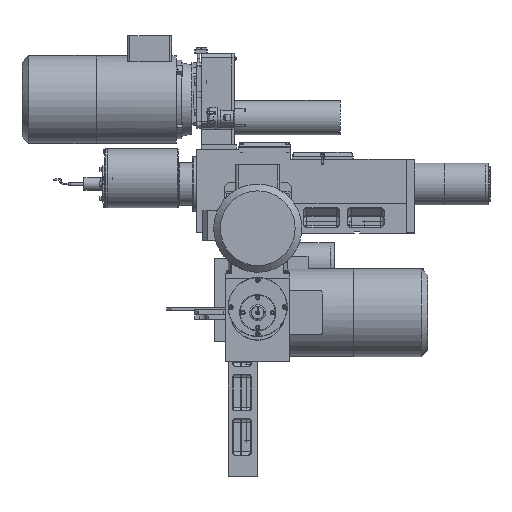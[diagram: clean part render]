
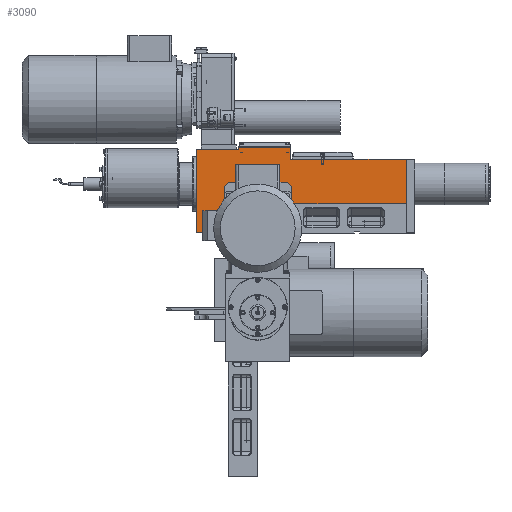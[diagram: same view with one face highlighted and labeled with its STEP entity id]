
A CAD part, front view. The second image highlights one B-rep face of the part: STEP entity #3090.
In plain terms, the highlighted planar face has unit normal (0, -1, 0).
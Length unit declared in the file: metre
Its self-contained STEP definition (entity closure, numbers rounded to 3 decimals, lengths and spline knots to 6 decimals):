
#3090 = ADVANCED_FACE( '', ( #4902 ), #4903, .T. );
#4902 = FACE_OUTER_BOUND( '', #9330, .T. );
#4903 = PLANE( '', #9331 );
#9330 = EDGE_LOOP( '', ( #15135, #15136, #15137, #15138, #15139, #15140, #15141, #15142, #15143, #15144 ) );
#9331 = AXIS2_PLACEMENT_3D( '', #15145, #15146, #15147 );
#15135 = ORIENTED_EDGE( '', *, *, #19839, .T. );
#15136 = ORIENTED_EDGE( '', *, *, #19840, .T. );
#15137 = ORIENTED_EDGE( '', *, *, #19841, .F. );
#15138 = ORIENTED_EDGE( '', *, *, #19842, .T. );
#15139 = ORIENTED_EDGE( '', *, *, #19843, .T. );
#15140 = ORIENTED_EDGE( '', *, *, #19835, .T. );
#15141 = ORIENTED_EDGE( '', *, *, #19844, .T. );
#15142 = ORIENTED_EDGE( '', *, *, #19845, .T. );
#15143 = ORIENTED_EDGE( '', *, *, #19846, .T. );
#15144 = ORIENTED_EDGE( '', *, *, #19847, .T. );
#15145 = CARTESIAN_POINT( '', ( 0.337, -0.003889, 0. ) );
#15146 = DIRECTION( '', ( 0., -1., 0. ) );
#15147 = DIRECTION( '', ( 1., 0., 0. ) );
#19835 = EDGE_CURVE( '', #22749, #22747, #22750, .T. );
#19839 = EDGE_CURVE( '', #22756, #22757, #22758, .T. );
#19840 = EDGE_CURVE( '', #22757, #22759, #22760, .T. );
#19841 = EDGE_CURVE( '', #22761, #22759, #22762, .T. );
#19842 = EDGE_CURVE( '', #22761, #22763, #22764, .T. );
#19843 = EDGE_CURVE( '', #22763, #22749, #22765, .T. );
#19844 = EDGE_CURVE( '', #22747, #22766, #22767, .T. );
#19845 = EDGE_CURVE( '', #22766, #22768, #22769, .T. );
#19846 = EDGE_CURVE( '', #22768, #22770, #22771, .T. );
#19847 = EDGE_CURVE( '', #22770, #22756, #22772, .T. );
#22747 = VERTEX_POINT( '', #28537 );
#22749 = VERTEX_POINT( '', #28540 );
#22750 = LINE( '', #28541, #28542 );
#22756 = VERTEX_POINT( '', #28551 );
#22757 = VERTEX_POINT( '', #28552 );
#22758 = LINE( '', #28553, #28554 );
#22759 = VERTEX_POINT( '', #28555 );
#22760 = LINE( '', #28556, #28557 );
#22761 = VERTEX_POINT( '', #28558 );
#22762 = LINE( '', #28559, #28560 );
#22763 = VERTEX_POINT( '', #28561 );
#22764 = LINE( '', #28562, #28563 );
#22765 = LINE( '', #28564, #28565 );
#22766 = VERTEX_POINT( '', #28566 );
#22767 = LINE( '', #28567, #28568 );
#22768 = VERTEX_POINT( '', #28569 );
#22769 = LINE( '', #28570, #28571 );
#22770 = VERTEX_POINT( '', #28572 );
#22771 = LINE( '', #28573, #28574 );
#22772 = LINE( '', #28575, #28576 );
#28537 = CARTESIAN_POINT( '', ( 0.337, -0.003889, 0.09 ) );
#28540 = CARTESIAN_POINT( '', ( 0.337, -0.003889, 0. ) );
#28541 = CARTESIAN_POINT( '', ( 0.337, -0.003889, 0. ) );
#28542 = VECTOR( '', #33030, 1. );
#28551 = CARTESIAN_POINT( '', ( -0.003, -0.003889, 0.11 ) );
#28552 = CARTESIAN_POINT( '', ( -0.088, -0.003889, 0.11 ) );
#28553 = CARTESIAN_POINT( '', ( 0.14575, -0.003889, 0.11 ) );
#28554 = VECTOR( '', #33034, 1. );
#28555 = CARTESIAN_POINT( '', ( -0.088, -0.003889, -0.059 ) );
#28556 = CARTESIAN_POINT( '', ( -0.088, -0.003889, -0.059 ) );
#28557 = VECTOR( '', #33035, 1. );
#28558 = CARTESIAN_POINT( '', ( -0.005, -0.003889, -0.059 ) );
#28559 = CARTESIAN_POINT( '', ( -0.005, -0.003889, -0.059 ) );
#28560 = VECTOR( '', #33036, 1. );
#28561 = CARTESIAN_POINT( '', ( -0.005, -0.003889, 0. ) );
#28562 = CARTESIAN_POINT( '', ( -0.005, -0.003889, -0.059 ) );
#28563 = VECTOR( '', #33037, 1. );
#28564 = CARTESIAN_POINT( '', ( -0.005, -0.003889, 0. ) );
#28565 = VECTOR( '', #33038, 1. );
#28566 = CARTESIAN_POINT( '', ( 0.102, -0.003889, 0.09 ) );
#28567 = CARTESIAN_POINT( '', ( -0.005, -0.003889, 0.09 ) );
#28568 = VECTOR( '', #33039, 1. );
#28569 = CARTESIAN_POINT( '', ( 0.102, -0.003889, 0.115 ) );
#28570 = CARTESIAN_POINT( '', ( 0.102, -0.003889, 0.09 ) );
#28571 = VECTOR( '', #33040, 1. );
#28572 = CARTESIAN_POINT( '', ( -0.003, -0.003889, 0.115 ) );
#28573 = CARTESIAN_POINT( '', ( -0.005, -0.003889, 0.115 ) );
#28574 = VECTOR( '', #33041, 1. );
#28575 = CARTESIAN_POINT( '', ( -0.003, -0.003889, 0.058735 ) );
#28576 = VECTOR( '', #33042, 1. );
#33030 = DIRECTION( '', ( 0., 0., 1. ) );
#33034 = DIRECTION( '', ( -1., 0., 0. ) );
#33035 = DIRECTION( '', ( 0., 0., -1. ) );
#33036 = DIRECTION( '', ( -1., 0., 0. ) );
#33037 = DIRECTION( '', ( 0., 0., 1. ) );
#33038 = DIRECTION( '', ( 1., 0., 0. ) );
#33039 = DIRECTION( '', ( -1., 0., 0. ) );
#33040 = DIRECTION( '', ( 0., 0., 1. ) );
#33041 = DIRECTION( '', ( -1., 0., 0. ) );
#33042 = DIRECTION( '', ( 0., 0., -1. ) );
